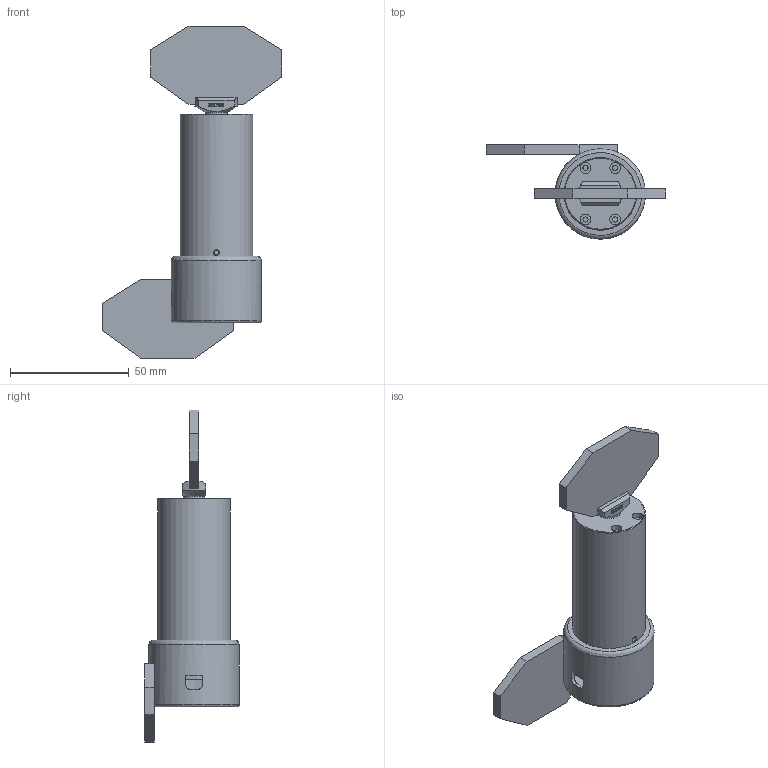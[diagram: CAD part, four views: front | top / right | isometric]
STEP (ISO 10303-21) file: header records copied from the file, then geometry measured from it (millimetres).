
FILE_DESCRIPTION( ( 'Unknown' ), '1' );
FILE_NAME( 'F:/方头/外形尺寸图/电机/3D/光栅电机/30mm光电光栅国产编码器带X镜片.stp', 'Unknown', ( 'Unknown' ), ( 'Unknown' ), 'XStep 1.0', 'Unknown', ' ' );
FILE_SCHEMA( ( 'CONFIG_CONTROL_DESIGN' ) );
Length unit declared in the file: millimetre
Products named in the file (3): Assem1; 1; 2
Bounding box: 75.47 x 39.72 x 139.6 mm (x, y, z)
Volume: 105018.1 mm3; surface area: 54511.3 mm2
Topology: 4 solids, 26 shells, 746 faces, 1962 edges, 1308 vertices
Faces by surface type: plane 426, cylinder 164, cone 74, extrusion 36, sphere 24, torus 14, bspline 8
Full cylindrical faces by diameter (mm): 0.2 x2, 1.075 x4, 1.567 x18, 2 x6, 2.013 x2, 2.1 x6, 2.2 x8, 3 x2, 4.5 x8, 5 x4, 6.05 x2, 6.35 x4, 6.9 x2, 7.35 x2, 8.4 x8, 8.95 x2, 9 x2, 9.525 x4, 9.9 x4, 10 x4, 10.719 x2, 11.4 x2, 12 x2, 13.8 x2, 16 x2, 18 x2, 30.48 x2, 32.4 x2, 34 x2, 34.2 x2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
Entity records: 11966 total; most frequent: CARTESIAN_POINT 3710, DIRECTION 1616, ORIENTED_EDGE 1476, EDGE_CURVE 738, AXIS2_PLACEMENT_3D 598, EDGE_LOOP 584, VERTEX_POINT 554, FACE_OUTER_BOUND 441
